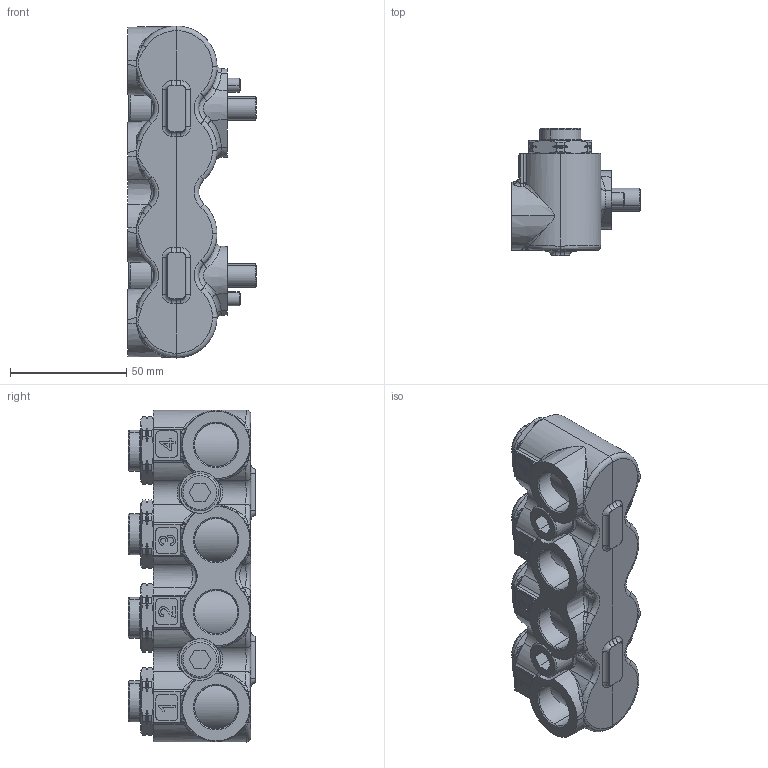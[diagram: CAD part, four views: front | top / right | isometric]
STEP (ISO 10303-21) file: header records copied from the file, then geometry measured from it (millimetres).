
FILE_DESCRIPTION (( 'STEP AP214' ), '1' );
FILE_NAME ('P7319-4A.STEP', '2023-05-25T10:08:01', ( '' ), ( '' ), 'SwSTEP 2.0', 'SolidWorks 2021', '' );
FILE_SCHEMA (( 'AUTOMOTIVE_DESIGN' ));
Length unit declared in the file: millimetre
Products named in the file (1): P7319-4A
Bounding box: 55.5 x 54.8 x 143 mm (x, y, z)
Volume: 226829.4 mm3; surface area: 52736.9 mm2
Topology: 17 solids, 17 shells, 817 faces, 2047 edges, 1287 vertices
Faces by surface type: cylinder 216, plane 181, bspline 169, cone 167, torus 84
Entity records: 42906 total; most frequent: CARTESIAN_POINT 15773, ORIENTED_EDGE 4086, DIRECTION 3350, EDGE_CURVE 2043, AXIS2_PLACEMENT_3D 1357, VERTEX_POINT 1287, EDGE_LOOP 848, UNCERTAINTY_MEASURE_WITH_UNIT 836
